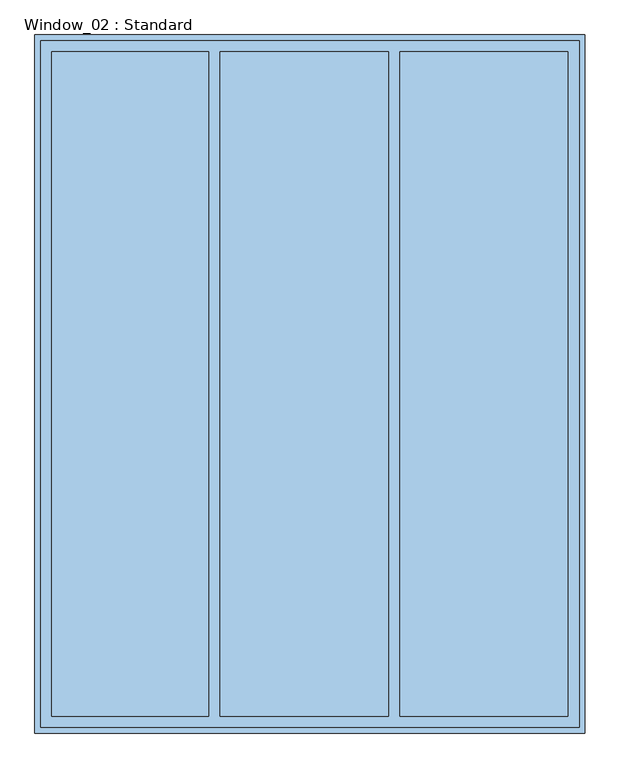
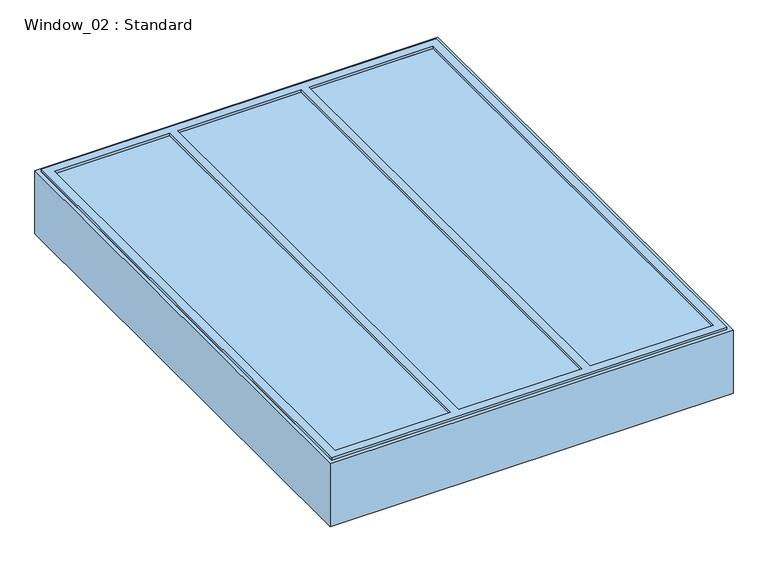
"""IFC4 building model written with IfcOpenShell, lengths in millimetres: window geometry, Window_02 : Standard."""

from ifc_helpers import new_model, si_unit, frame, origin, origin_with_axes, place, context, project, spatial, polyline, outline, extrude, source, transform, mapped, element, save


def window_02_standard_e155140b(model_context):
    return source(origin(), model_context, "Body", "SweptSolid", [
        extrude(outline(polyline([(-950.0, -1210.0), (-950.0, 1210.0), (950.0, 1210.0), (950.0, -1210.0), (-950.0, -1210.0)]), holes=[polyline([(-910.0, 1170.0), (-910.0, -1170.0), (-356.6666667, -1170.0), (-356.6666667, 1170.0), (-910.0, 1170.0)]), polyline([(276.6666667, 1170.0), (-316.6666667, 1170.0), (-316.6666667, -1170.0), (276.6666667, -1170.0), (276.6666667, 1170.0)]), polyline([(316.6666667, -1170.0), (910.0, -1170.0), (910.0, 1170.0), (316.6666667, 1170.0), (316.6666667, -1170.0)])]), frame((0.0, 0.0, 315.094128), z_axis=(0.0, 0.0, 1.0), x_axis=(1.0, 0.0, 0.0)), (0.0, 0.0, 1.0), 17.0543259),
        extrude(outline(polyline([(-910.0, 1170.0), (910.0, 1170.0), (910.0, -1170.0), (-910.0, -1170.0), (-910.0, 1170.0)])), frame((0.0, 0.0, 315.094128), z_axis=(0.0, 0.0, 1.0), x_axis=(1.0, 0.0, 0.0)), (0.0, 0.0, 1.0), 4.905872),
        extrude(outline(polyline([(950.0, 1210.0), (950.0, -1210.0), (-950.0, -1210.0), (-950.0, 1210.0), (950.0, 1210.0)]), holes=[polyline([(-910.0, 1170.0), (-910.0, -1170.0), (910.0, -1170.0), (910.0, 1170.0), (-910.0, 1170.0)])]), frame((0.0, 0.0, 250.0), z_axis=(0.0, 0.0, 1.0), x_axis=(1.0, 0.0, 0.0)), (0.0, 0.0, 1.0), 70.0),
        extrude(outline(polyline([(970.0, 1230.0), (970.0, -1230.0), (-970.0, -1230.0), (-970.0, 1230.0), (970.0, 1230.0)]), holes=[polyline([(950.0, 1210.0), (-950.0, 1210.0), (-950.0, -1210.0), (950.0, -1210.0), (950.0, 1210.0)])]), origin_with_axes(), (0.0, 0.0, 1.0), 320.0),
    ])


if __name__ == "__main__":
    model = new_model("IFC4")
    model_context = context("Model", 3, world=origin())
    ifc_project = project(units=[si_unit("LENGTHUNIT", "METRE", prefix="MILLI")], contexts=[model_context])
    site = spatial("IfcSite", under=ifc_project)
    building = spatial("IfcBuilding", under=site)
    placement = place(None, origin())
    window_02_standard_shape = window_02_standard_e155140b(model_context)
    element("IfcWindow", 1, ObjectType="Window_02 : Standard", at=placement, inside=building, context=model_context, shape_type="MappedRepresentation", body=[
        mapped(window_02_standard_shape, transform((0.0, 0.0, 0.0), x_axis=(1.0, 0.0, 0.0), y_axis=(0.0, 1.0, 0.0), z_axis=(0.0, 0.0, 1.0))),
    ])
    save(model, "model.ifc")
